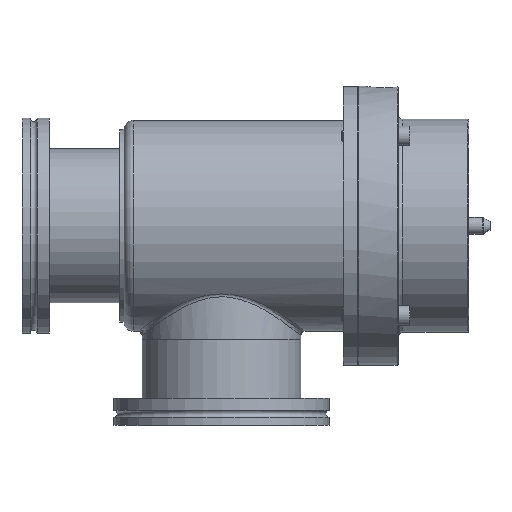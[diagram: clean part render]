
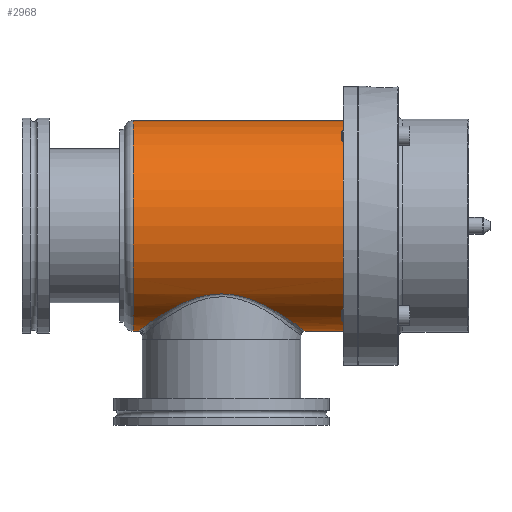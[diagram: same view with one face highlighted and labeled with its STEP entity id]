
A CAD part, top view. The second image highlights one B-rep face of the part: STEP entity #2968.
In plain terms, the highlighted cylindrical face has radius 46.5 mm (diameter 93 mm), a full revolution.
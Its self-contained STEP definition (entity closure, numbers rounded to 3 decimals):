
#1524=B_SPLINE_CURVE_WITH_KNOTS('',3,(#7376,#7377,#7378,#7379,#7380,#7381,
#7382,#7383,#7384,#7385,#7386,#7387,#7388,#7389,#7390,#7391,#7392,#7393,
#7394,#7395,#7396,#7397,#7398,#7399,#7400,#7401,#7402,#7403,#7404,#7405,
#7406,#7407,#7408,#7409,#7410,#7411,#7412,#7413,#7414,#7415,#7416,#7417,
#7418,#7419,#7420,#7421),.UNSPECIFIED.,.T.,.F.,(2,2,2,2,2,2,2,2,2,2,2,2,
2,2,2,2,2,2,2,2,2,2,2,2,2),(-0.063,0.,0.063,0.094,0.125,0.156,
0.188,0.219,0.25,0.313,0.375,0.438,0.5,0.531,0.563,0.625,0.656,
0.688,0.719,0.75,0.813,0.875,0.938,1.,1.063),.UNSPECIFIED.);
#2438=CYLINDRICAL_SURFACE('',#5404,46.5);
#2679=FACE_BOUND('',#3462,.T.);
#2680=FACE_BOUND('',#3463,.T.);
#2681=FACE_BOUND('',#3464,.T.);
#2968=ADVANCED_FACE('',(#2679,#2680,#2681),#2438,.T.);
#3462=EDGE_LOOP('',(#4110));
#3463=EDGE_LOOP('',(#4111));
#3464=EDGE_LOOP('',(#4112));
#4110=ORIENTED_EDGE('',*,*,#4834,.T.);
#4111=ORIENTED_EDGE('',*,*,#4835,.T.);
#4112=ORIENTED_EDGE('',*,*,#4836,.T.);
#4499=VERTEX_POINT('',#7375);
#4500=VERTEX_POINT('',#7422);
#4501=VERTEX_POINT('',#7424);
#4834=EDGE_CURVE('',#4499,#4499,#5053,.T.);
#4835=EDGE_CURVE('',#4500,#4500,#1524,.T.);
#4836=EDGE_CURVE('',#4501,#4501,#5054,.T.);
#5053=CIRCLE('',#5402,46.5);
#5054=CIRCLE('',#5403,46.5);
#5402=AXIS2_PLACEMENT_3D('',#7374,#6220,#6221);
#5403=AXIS2_PLACEMENT_3D('',#7423,#6222,#6223);
#5404=AXIS2_PLACEMENT_3D('',#7425,#6224,#6225);
#6220=DIRECTION('',(1.,0.,0.));
#6221=DIRECTION('',(0.,0.,-1.));
#6222=DIRECTION('',(-1.,0.,0.));
#6223=DIRECTION('',(0.,0.,1.));
#6224=DIRECTION('',(-1.,0.,0.));
#6225=DIRECTION('',(0.,0.,1.));
#7374=CARTESIAN_POINT('',(4.,0.,0.));
#7375=CARTESIAN_POINT('',(4.,0.,-46.5));
#7376=CARTESIAN_POINT('',(37.968,-30.064,35.474));
#7377=CARTESIAN_POINT('',(48.032,-30.064,35.474));
#7378=CARTESIAN_POINT('',(52.901,-31.3,34.474));
#7379=CARTESIAN_POINT('',(59.385,-33.868,31.885));
#7380=CARTESIAN_POINT('',(61.453,-34.849,30.826));
#7381=CARTESIAN_POINT('',(65.29,-36.853,28.4));
#7382=CARTESIAN_POINT('',(67.071,-37.881,27.031));
#7383=CARTESIAN_POINT('',(70.388,-39.898,23.955));
#7384=CARTESIAN_POINT('',(71.934,-40.896,22.227));
#7385=CARTESIAN_POINT('',(74.659,-42.712,18.5));
#7386=CARTESIAN_POINT('',(75.851,-43.536,16.494));
#7387=CARTESIAN_POINT('',(77.853,-44.945,12.143));
#7388=CARTESIAN_POINT('',(78.643,-45.514,9.827));
#7389=CARTESIAN_POINT('',(79.712,-46.288,5.049));
#7390=CARTESIAN_POINT('',(79.996,-46.497,2.53));
#7391=CARTESIAN_POINT('',(80.008,-46.506,-4.901));
#7392=CARTESIAN_POINT('',(78.892,-45.677,-9.844));
#7393=CARTESIAN_POINT('',(74.912,-42.875,-18.574));
#7394=CARTESIAN_POINT('',(72.101,-40.942,-22.354));
#7395=CARTESIAN_POINT('',(65.451,-36.893,-28.545));
#7396=CARTESIAN_POINT('',(61.575,-34.738,-31.007));
#7397=CARTESIAN_POINT('',(52.929,-31.308,-34.467));
#7398=CARTESIAN_POINT('',(48.026,-30.066,-35.472));
#7399=CARTESIAN_POINT('',(40.507,-30.063,-35.475));
#7400=CARTESIAN_POINT('',(38.066,-30.352,-35.235));
#7401=CARTESIAN_POINT('',(33.293,-31.392,-34.311));
#7402=CARTESIAN_POINT('',(30.979,-32.142,-33.625));
#7403=CARTESIAN_POINT('',(24.474,-34.713,-31.035));
#7404=CARTESIAN_POINT('',(20.607,-36.861,-28.585));
#7405=CARTESIAN_POINT('',(15.628,-39.888,-23.971));
#7406=CARTESIAN_POINT('',(14.08,-40.887,-22.244));
#7407=CARTESIAN_POINT('',(11.351,-42.705,-18.516));
#7408=CARTESIAN_POINT('',(10.157,-43.531,-16.509));
#7409=CARTESIAN_POINT('',(8.153,-44.941,-12.158));
#7410=CARTESIAN_POINT('',(7.361,-45.511,-9.84));
#7411=CARTESIAN_POINT('',(6.29,-46.287,-5.06));
#7412=CARTESIAN_POINT('',(6.004,-46.497,-2.539));
#7413=CARTESIAN_POINT('',(5.991,-46.506,4.897));
#7414=CARTESIAN_POINT('',(7.107,-45.677,9.843));
#7415=CARTESIAN_POINT('',(11.089,-42.874,18.577));
#7416=CARTESIAN_POINT('',(13.903,-40.939,22.359));
#7417=CARTESIAN_POINT('',(20.559,-36.887,28.553));
#7418=CARTESIAN_POINT('',(24.438,-34.732,31.014));
#7419=CARTESIAN_POINT('',(33.092,-31.302,34.473));
#7420=CARTESIAN_POINT('',(37.968,-30.064,35.474));
#7421=CARTESIAN_POINT('',(48.032,-30.064,35.474));
#7422=CARTESIAN_POINT('',(43.,-30.064,35.474));
#7423=CARTESIAN_POINT('',(98.6,0.,0.));
#7424=CARTESIAN_POINT('',(98.6,0.,46.5));
#7425=CARTESIAN_POINT('',(0.,0.,0.));
